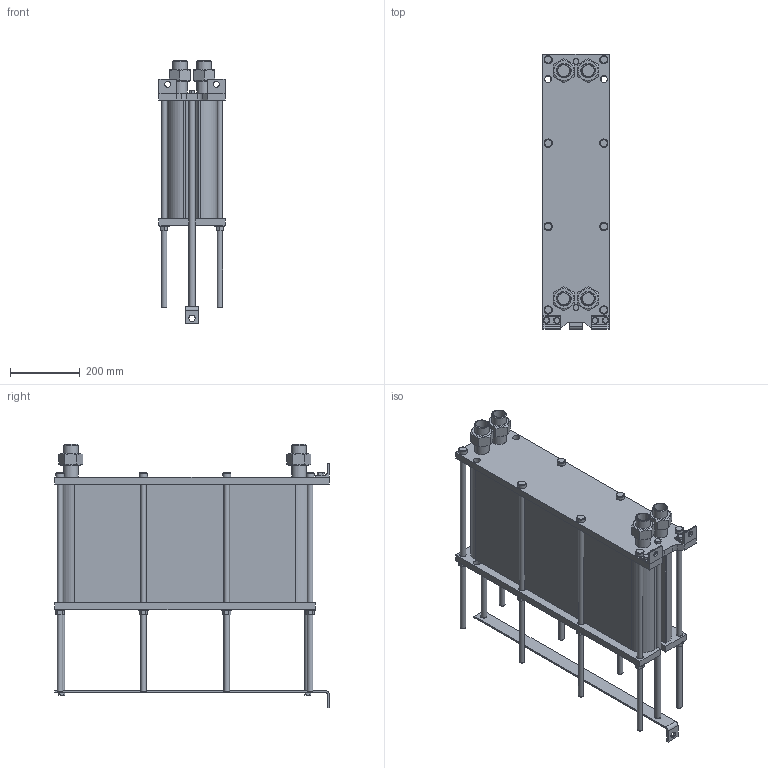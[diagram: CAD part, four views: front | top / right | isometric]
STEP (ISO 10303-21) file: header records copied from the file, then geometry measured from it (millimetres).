
FILE_DESCRIPTION(/* description */ (''),/* implementation_level */ '2;1');
FILE_NAME(/* name */ 'C:\Users\zhuro\Desktop\ENCO\TO\ЭН-008\ЭН-0,5-008-110-1.stp',/* time_stamp */ '2022-06-06T10:55:52+03:00',/* author */ ('zhuro'),/* organization */ (''),/* preprocessor_version */ 'ST-DEVELOPER v18.1',/* originating_system */ 'Autodesk Inventor 2022',/* authorisation */ '');
FILE_SCHEMA (('AUTOMOTIVE_DESIGN { 1 0 10303 214 3 1 1 }'));
Length unit declared in the file: millimetre
Products named in the file (1): ЭН-0,5-008-110-1
Bounding box: 190 x 790 x 757 mm (x, y, z)
Volume: 41773298 mm3; surface area: 2106113.1 mm2
Topology: 40 solids, 40 shells, 428 faces, 924 edges, 606 vertices
Faces by surface type: plane 273, cylinder 109, cone 40, torus 6
Full cylindrical faces by diameter (mm): 12 x6, 14 x2, 16 x20, 17 x8, 18 x19, 20 x5, 24 x8, 28 x8, 34.3 x8, 42.3 x8
Entity records: 15843 total; most frequent: CARTESIAN_POINT 5991, DIRECTION 1984, ORIENTED_EDGE 1848, EDGE_CURVE 924, AXIS2_PLACEMENT_3D 715, VERTEX_POINT 606, LINE 554, VECTOR 554
